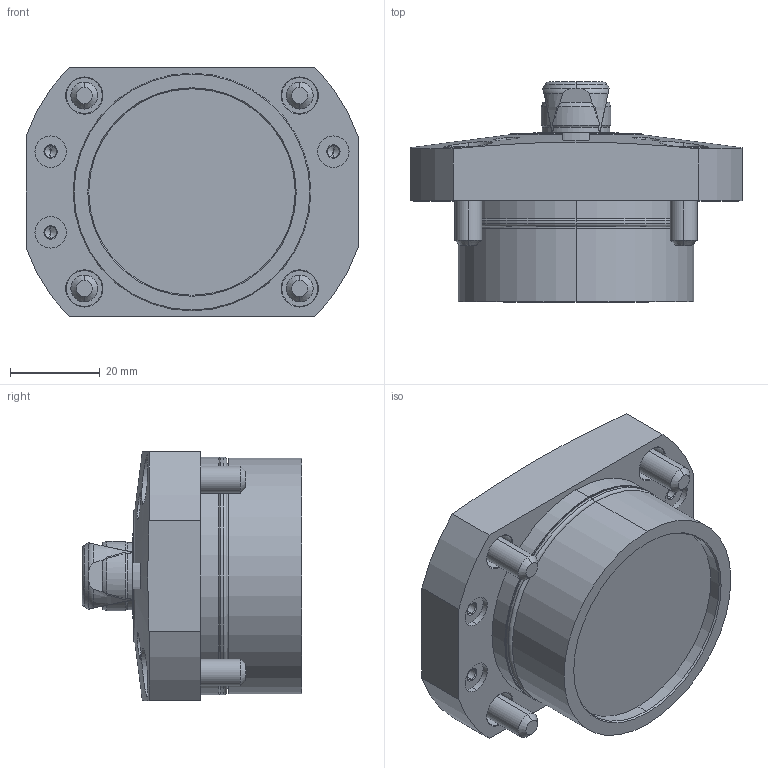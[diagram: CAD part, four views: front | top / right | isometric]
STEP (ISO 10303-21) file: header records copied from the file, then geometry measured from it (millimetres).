
FILE_DESCRIPTION (( 'STEP AP203' ), '1' );
FILE_NAME ('SFH3160.STEP', '2010-11-03T23:24:34', ( ' ' ), ( ' ' ), 'SwSTEP 2.0', 'SolidWorks 2010', '' );
FILE_SCHEMA (( 'CONFIG_CONTROL_DESIGN' ));
Length unit declared in the file: millimetre
Products named in the file (7): SFH3160_套菁轤礁诎蔬晅; 6妏寠晅无倌_M6_16; SFH3160; SFH3_钾堇轤O剌皋晅; φ16_ｽﾘｰﾌﾞ; 冇16_郫霓; 6妏寠晅无倌_M3_10
Assembly tree (14 placements, depth 2):
  SFH3160
    SFH3160_套菁轤礁诎蔬晅
    6妏寠晅无倌_M6_16  x4
    6妏寠晅无倌_M3_10  x6
    φ16_ｽﾘｰﾌﾞ
    SFH3_钾堇轤O剌皋晅
    冇16_郫霓
Bounding box: 74 x 49 x 55.5 mm (x, y, z)
Volume: 96369.1 mm3; surface area: 30203 mm2
Topology: 18 solids, 18 shells, 560 faces, 1139 edges, 626 vertices
Faces by surface type: plane 225, cone 180, cylinder 136, torus 19
Entity records: 10476 total; most frequent: CARTESIAN_POINT 2545, DIRECTION 1548, ORIENTED_EDGE 1390, EDGE_CURVE 695, AXIS2_PLACEMENT_3D 646, VERTEX_POINT 426, EDGE_LOOP 357, CIRCLE 317
